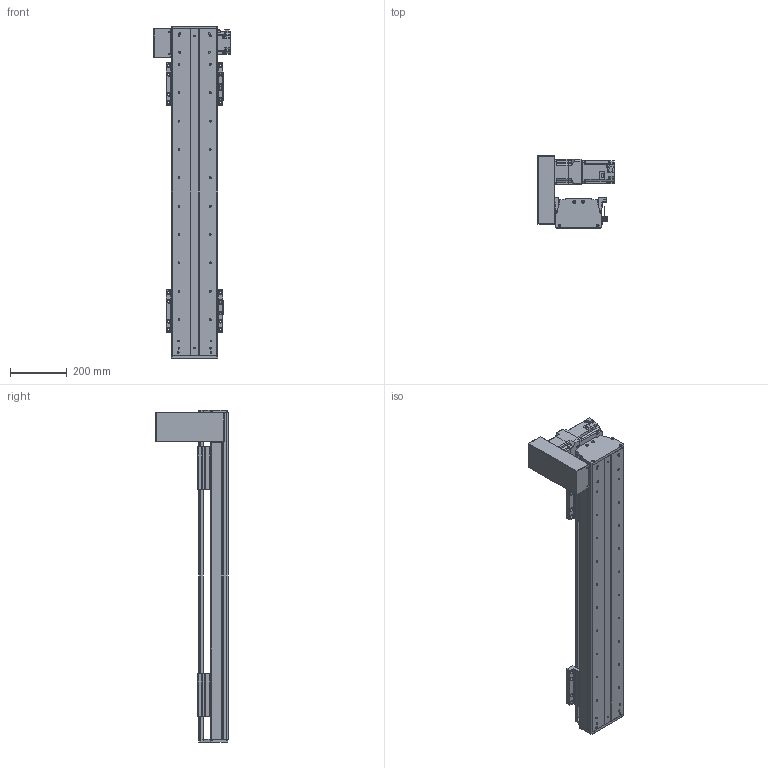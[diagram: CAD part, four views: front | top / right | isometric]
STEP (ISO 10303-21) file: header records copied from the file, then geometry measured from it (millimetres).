
FILE_DESCRIPTION(/* description */ (''),/* implementation_level */ '2;1');
FILE_NAME(/* name */ 'C:\Users\PC\Desktop\3D도면\STEP\DSB165-UL7G-W0800-R.stp',/* time_stamp */ '2018-06-25T15:03:58+09:00',/* author */ ('PC'),/* organization */ (''),/* preprocessor_version */ 'ST-DEVELOPER v16.5',/* originating_system */ 'Autodesk Inventor 2017',/* authorisation */ '');
FILE_SCHEMA (('AUTOMOTIVE_DESIGN { 1 0 10303 214 3 1 1 }'));
Length unit declared in the file: millimetre
Products named in the file (12): DSB165-L; DSR165-BASE_S; hg-kr73_; ab0901-p0401300102; 11-DBS165 BELT COVER; DBS165-COVER; DBS165-COVER_1; DBS165-UP COVER; DSR126-SENSOR DOG; pm-y65_step; SENSOR BRACKET(EE-SX674A); DBS165-TABLE(MSA20S)
Assembly tree (16 placements, depth 2):
  DSB165-L
    DSR165-BASE_S
    hg-kr73_
    ab0901-p0401300102
    11-DBS165 BELT COVER
    DBS165-COVER
    DBS165-COVER_1
    DBS165-UP COVER
    DSR126-SENSOR DOG
    pm-y65_step  x3
    SENSOR BRACKET(EE-SX674A)  x3
    DBS165-TABLE(MSA20S)  x2
Bounding box: 270 x 254 x 1170 mm (x, y, z)
Volume: 7952813.6 mm3; surface area: 1837288.6 mm2
Topology: 17 solids, 22 shells, 1671 faces, 4485 edges, 2958 vertices
Faces by surface type: plane 926, cylinder 621, cone 112, sphere 8, torus 4
Full cylindrical faces by diameter (mm): 2.459 x20, 3.5 x6, 4.134 x42, 4.5 x18, 5 x27, 5.5 x36, 5.9 x4, 6 x8, 6.6 x14, 6.647 x40, 6.8 x1, 7 x4, 7.6 x4, 8 x1, 8.4 x1, 8.5 x24, 8.7 x1, 9.5 x32, 11 x6, 14 x16, 19 x1, 22 x1, 24 x1, 25 x1, 28 x1, 67 x1, 70 x2, 80 x1
Entity records: 35549 total; most frequent: DIRECTION 6284, CARTESIAN_POINT 6091, ORIENTED_EDGE 5542, EDGE_CURVE 2776, AXIS2_PLACEMENT_3D 2312, VERTEX_POINT 1981, EDGE_LOOP 1739, LINE 1660
